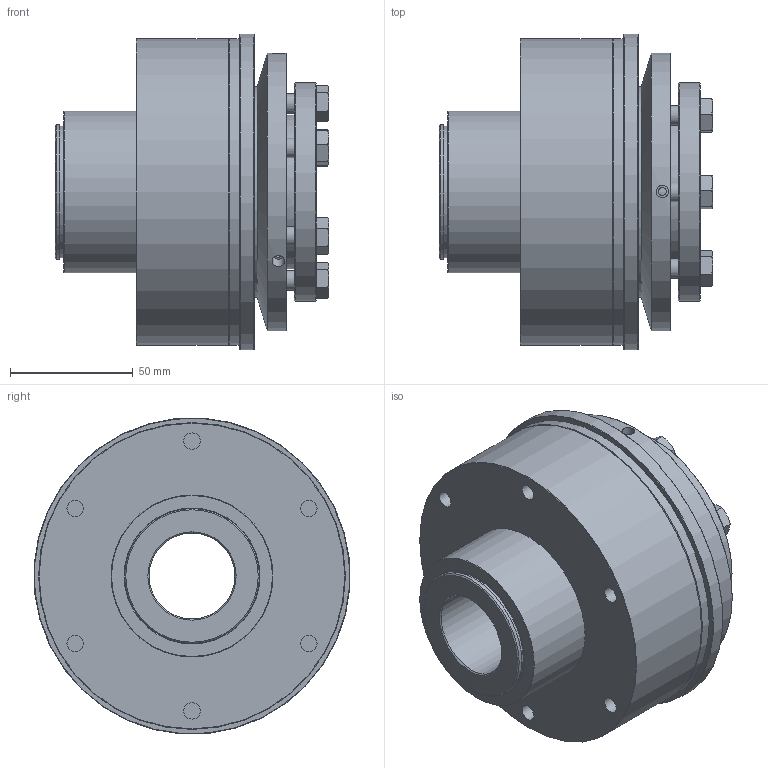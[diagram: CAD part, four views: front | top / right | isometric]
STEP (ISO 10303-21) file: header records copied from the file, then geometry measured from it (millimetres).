
FILE_DESCRIPTION( ( 'Unknown' ), '1' );
FILE_NAME( 'C:/Users/TWalzel/Documents/CAD-Daten/KBK-CI/500/KBK C-I-500.stp', 'Unknown', ( 'Unknown' ), ( 'Unknown' ), 'PSStep 16.0.42', 'Unknown', ' ' );
FILE_SCHEMA( ( 'AUTOMOTIVE_DESIGN { 1 0 10303 214 1 1 1 1 }' ) );
Length unit declared in the file: millimetre
Products named in the file (11): Druckring 500; Stellring 500; din_en_24017_m8x30_0; Konusbuchse 500; Assem1; Flansch-Gleitlager  CK-500; Grundkörper C-I-500_1
Assembly tree (15 placements, depth 3):
  Assem1
    Flansch-Gleitlager  CK-500
    Grundkörper C-I-500_1
    Konusbuchse 500
      Konusbuchse 500
    Stellring 500
      Stellring 500
    Druckring 500
      Druckring 500
    din_en_24017_m8x30_0  x6
      din_en_24017_m8x30_0
Bounding box: 111.64 x 128.68 x 128.68 mm (x, y, z)
Volume: 780705 mm3; surface area: 171926.8 mm2
Topology: 11 solids, 11 shells, 271 faces, 567 edges, 360 vertices
Faces by surface type: plane 117, cone 80, cylinder 66, torus 8
Full cylindrical faces by diameter (mm): 3.242 x3, 5.1 x3, 5.2 x3, 6.647 x21, 8 x6, 9 x6, 11.63 x6, 35 x2, 53.5 x1, 55 x3, 62.6 x1, 66 x1, 71 x1, 86 x2, 89 x1, 104.5 x1, 113 x1, 114 x1, 125 x2, 129 x1
Entity records: 5658 total; most frequent: CARTESIAN_POINT 1021, DIRECTION 722, ORIENTED_EDGE 456, AXIS2_PLACEMENT_3D 339, EDGE_LOOP 308, EDGE_CURVE 228, FACE_OUTER_BOUND 220, VERTEX_POINT 192
